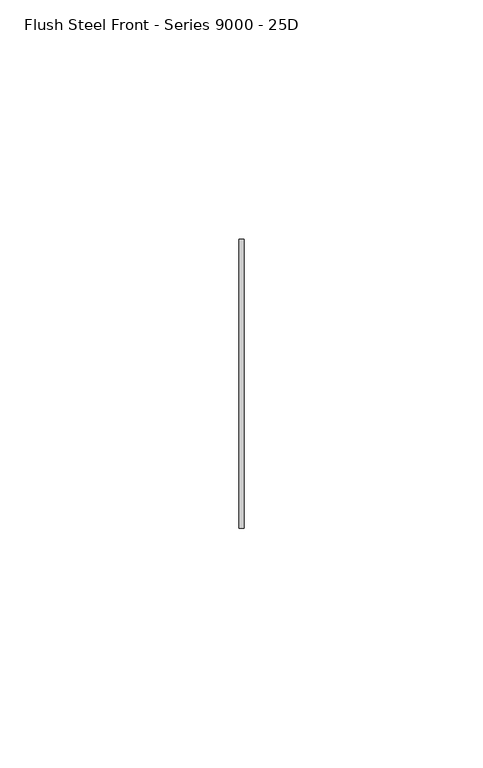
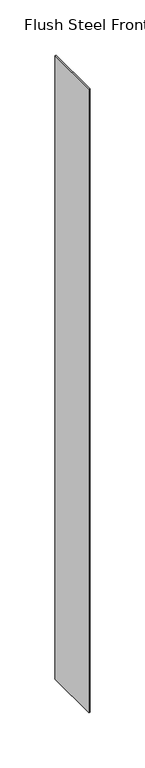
"""IFC4 building model written with IfcOpenShell, lengths in millimetres: furniture geometry, Steelcase - Universal Storage - Pedestal Filler - For Fixed Pedestal : Flush Steel Front - Series 9000 - 25D."""

from ifc_helpers import new_model, si_unit, origin, origin_with_axes, place, context, project, spatial, polyline, outline, extrude, source, transform, mapped, element, save


def flush_steel_front_series_9000_25d_0ff2823d(model_context):
    return source(origin(), model_context, "Body", "SweptSolid", [
        extrude(outline(polyline([(1.016, 60.452), (1.016, 0.0), (0.0, 0.0), (0.0, 60.452), (1.016, 60.452)])), origin_with_axes(), (0.0, 0.0, 1.0), 685.8),
    ])


if __name__ == "__main__":
    model = new_model("IFC4")
    model_context = context("Model", 3, world=origin())
    ifc_project = project(units=[si_unit("LENGTHUNIT", "METRE", prefix="MILLI")], contexts=[model_context])
    site = spatial("IfcSite", under=ifc_project)
    building = spatial("IfcBuilding", under=site)
    placement = place(None, origin())
    flush_steel_front_series_9000_25d_shape = flush_steel_front_series_9000_25d_0ff2823d(model_context)
    element("IfcFurniture", 1, ObjectType="Steelcase - Universal Storage - Pedestal Filler - For Fixed Pedestal : Flush Steel Front - Series 9000 - 25D", at=placement, inside=building, context=model_context, shape_type="MappedRepresentation", body=[
        mapped(flush_steel_front_series_9000_25d_shape, transform((0.0, 0.0, 0.0), x_axis=(1.0, 0.0, 0.0), y_axis=(0.0, 1.0, 0.0), z_axis=(0.0, 0.0, 1.0))),
    ])
    save(model, "model.ifc")
